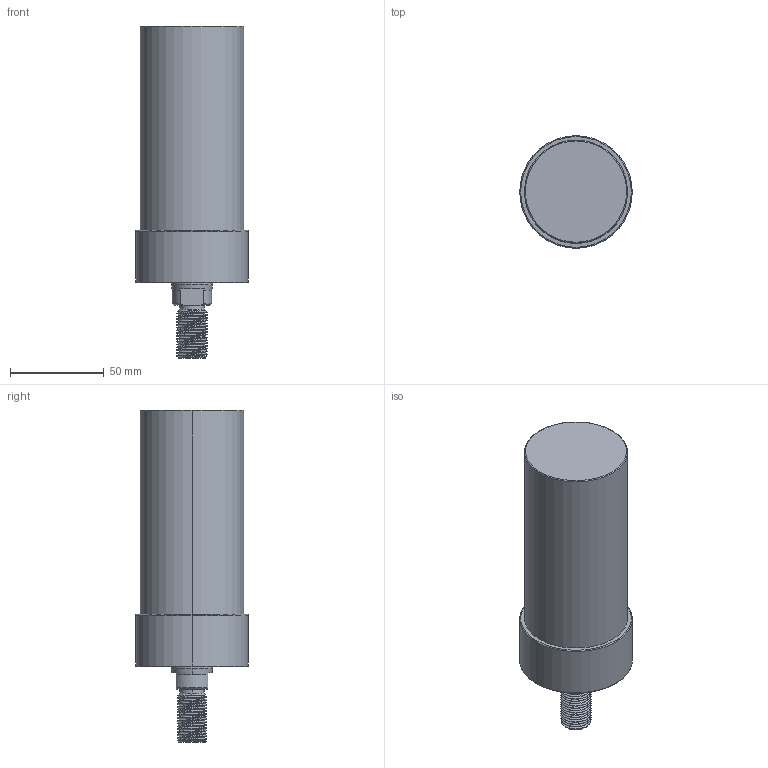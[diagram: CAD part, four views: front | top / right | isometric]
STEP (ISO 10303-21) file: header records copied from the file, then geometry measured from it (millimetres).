
FILE_DESCRIPTION (( 'STEP AP203' ), '1' );
FILE_NAME ('CLLU-055GT-080.STEP', '2020-01-16T01:47:52', ( '' ), ( '' ), 'SwSTEP 2.0', 'SolidWorks 2015', '' );
FILE_SCHEMA (( 'CONFIG_CONTROL_DESIGN' ));
Length unit declared in the file: millimetre
Products named in the file (1): CLLU-055GT-080
Bounding box: 60 x 60 x 177 mm (x, y, z)
Volume: 345387 mm3; surface area: 33826.2 mm2
Topology: 1 solids, 1 shells, 102 faces, 254 edges, 155 vertices
Faces by surface type: cylinder 56, cone 26, plane 12, torus 6, bspline 2
Entity records: 4899 total; most frequent: CARTESIAN_POINT 2608, ORIENTED_EDGE 492, DIRECTION 445, EDGE_CURVE 246, AXIS2_PLACEMENT_3D 178, VERTEX_POINT 155, EDGE_LOOP 111, ADVANCED_FACE 102
